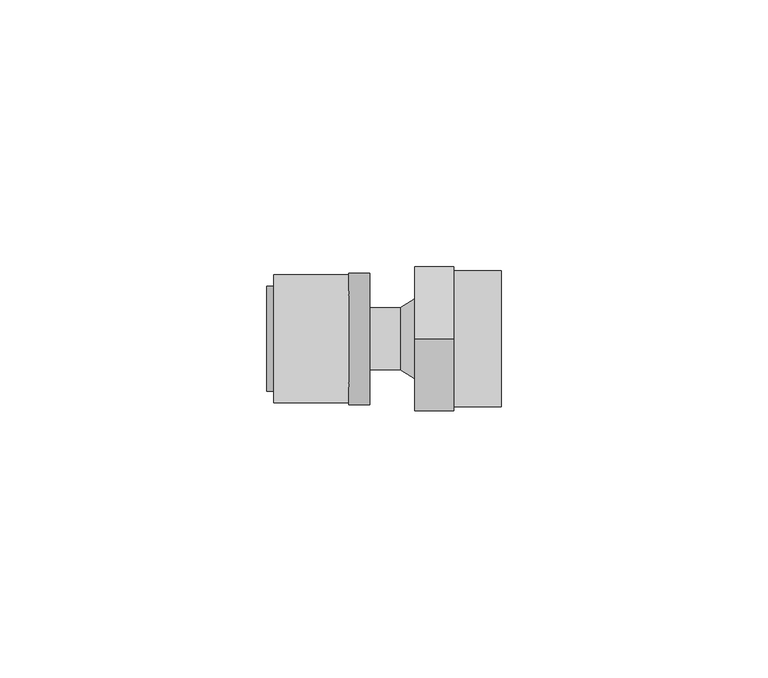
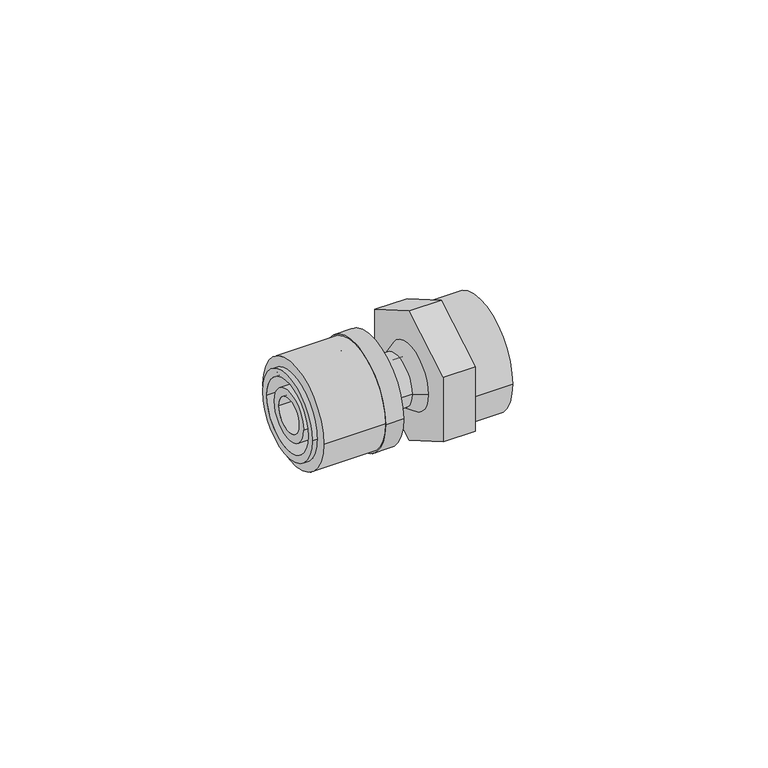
"""IFC4 building model written with IfcOpenShell, lengths in millimetres: pipe fitting geometry, FASTLOC_Adapter_LX, with internal thread : FSL A internal CZ."""

import ifcopenshell
import ifcopenshell.guid

model = None  # the IFC model being written
_history = None  # IfcOwnerHistory: only IFC2X3 demands one
_inside = {}  # id of a spatial element -> (the spatial element, [elements in it])
_under = {}  # id of a project, library or spatial element -> (it, [spatial elements below it])
_declared = {}  # id of a project -> (the project, [libraries it declares])
_typed = {}  # id of a type object -> (the type object, [elements of that type])
_made_of = {}  # id of a material, layer set ... -> (it, [elements and type objects made of it])


def new_model(schema):
    """Start an empty IFC model of exactly this schema.

    Asked for "IFC4X3", IfcOpenShell would pick the latest addendum, in which some entities
    have other attributes; the version numbers below select the first issue.
    IFC2X3 requires an IfcOwnerHistory on every rooted entity: one is made here for all.
    """
    global model, _history
    if schema == "IFC4X3":
        model = ifcopenshell.file(schema_version=(4, 3, 0, 0))
    else:
        model = ifcopenshell.file(schema=schema)
    _inside.clear()
    _under.clear()
    _declared.clear()
    _typed.clear()
    _made_of.clear()
    _history = None
    if model.schema == "IFC2X3":
        org = make("IfcOrganization", Name="unknown")
        user = make(
            "IfcPersonAndOrganization",
            ThePerson=make("IfcPerson", FamilyName="unknown"),
            TheOrganization=org,
        )
        app = make(
            "IfcApplication",
            ApplicationDeveloper=org,
            Version="unknown",
            ApplicationFullName="unknown",
            ApplicationIdentifier="unknown",
        )
        _history = make(
            "IfcOwnerHistory",
            OwningUser=user,
            OwningApplication=app,
            ChangeAction="ADDED",
            CreationDate=0,
        )
    return model


def make(cls, **values):
    """One entity of the class cls with the attributes given. An attribute that is None is left unset."""
    return model.create_entity(
        cls, **{name: value for name, value in values.items() if value is not None}
    )


def rooted(cls, **values):
    """An entity with a GlobalId (a new one), such as an element, a storey or a relation."""
    return make(cls, GlobalId=ifcopenshell.guid.new(), OwnerHistory=_history, **values)


def si_unit(unit_type, name, prefix=None):
    """IfcSIUnit, for example si_unit("LENGTHUNIT", "METRE", prefix="MILLI")."""
    return make("IfcSIUnit", UnitType=unit_type, Prefix=prefix, Name=name)


def assignment(units):
    """IfcUnitAssignment: the units of a project."""
    return None if units is None else make("IfcUnitAssignment", Units=units)


def point(xyz):
    """IfcCartesianPoint."""
    return None if xyz is None else make("IfcCartesianPoint", Coordinates=xyz)


def direction(xyz):
    """IfcDirection."""
    return None if xyz is None else make("IfcDirection", DirectionRatios=xyz)


def frame(location, z_axis=None, x_axis=None):
    """IfcAxis2Placement3D, a coordinate frame: its origin and axes. An axis left out is left unset."""
    return make(
        "IfcAxis2Placement3D",
        Location=point(location),
        Axis=direction(z_axis),
        RefDirection=direction(x_axis),
    )


def frame_2d(location, x_axis=None):
    """IfcAxis2Placement2D, a coordinate frame in the plane: its origin and x axis."""
    return make(
        "IfcAxis2Placement2D", Location=point(location), RefDirection=direction(x_axis)
    )


def origin():
    """The frame at (0, 0, 0) with its axes left unset."""
    return frame((0.0, 0.0, 0.0))


def origin_2d():
    """The frame at (0, 0) in the plane with its x axis left unset."""
    return frame_2d((0.0, 0.0))


def place(relative_to, where):
    """IfcLocalPlacement: puts the frame where relative to a parent placement (None: the world)."""
    return make(
        "IfcLocalPlacement", PlacementRelTo=relative_to, RelativePlacement=where
    )


def context(
    kind, dimensions, precision=None, world=None, true_north=None, identifier=None
):
    """IfcGeometricRepresentationContext, for example the 3D "Model" context."""
    return make(
        "IfcGeometricRepresentationContext",
        ContextIdentifier=identifier,
        ContextType=kind,
        CoordinateSpaceDimension=dimensions,
        Precision=precision,
        WorldCoordinateSystem=world,
        TrueNorth=true_north,
    )


def project(units=None, contexts=None):
    """IfcProject with its units and contexts."""
    return rooted(
        "IfcProject",
        Name="project",
        RepresentationContexts=contexts,
        UnitsInContext=assignment(units),
    )


def spatial(cls, under=None, at=None, **own):
    """A site, building, storey or space (cls), placed at a placement, below another one or the project."""
    s = rooted(cls, ObjectPlacement=at, **own)
    if under is not None:
        _under.setdefault(under.id(), (under, []))[1].append(s)
    return s


def polyline(points):
    """IfcPolyline through the points."""
    return make("IfcPolyline", Points=[point(p) for p in points])


def circle_curve(where, radius):
    """IfcCircle in the frame where."""
    return make("IfcCircle", Position=where, Radius=radius)


def trimmed(basis, trim1, trim2, sense, master):
    """IfcTrimmedCurve: the piece of a basis curve between two trims."""
    return make(
        "IfcTrimmedCurve",
        BasisCurve=basis,
        Trim1=trim1,
        Trim2=trim2,
        SenseAgreement=sense,
        MasterRepresentation=master,
    )


def segment(curve, same_sense, transition):
    """IfcCompositeCurveSegment."""
    return make(
        "IfcCompositeCurveSegment",
        Transition=transition,
        SameSense=same_sense,
        ParentCurve=curve,
    )


def composite_curve(segments, self_intersect=None):
    """IfcCompositeCurve: segments joined end to end."""
    return make("IfcCompositeCurve", Segments=segments, SelfIntersect=self_intersect)


def outline(outer, holes=None, kind="AREA"):
    """IfcArbitraryClosedProfileDef: a profile drawn as a closed curve; with holes, ...WithVoids."""
    if holes is None:
        return make("IfcArbitraryClosedProfileDef", ProfileType=kind, OuterCurve=outer)
    return make(
        "IfcArbitraryProfileDefWithVoids",
        ProfileType=kind,
        OuterCurve=outer,
        InnerCurves=holes,
    )


def extrude(swept, where, along, depth):
    """IfcExtrudedAreaSolid: the profile swept, set in the frame where, extruded along a direction by depth."""
    return make(
        "IfcExtrudedAreaSolid",
        SweptArea=swept,
        Position=where,
        ExtrudedDirection=direction(along),
        Depth=depth,
    )


def shape(context_of_items, identifier, shape_type, items):
    """IfcShapeRepresentation: the items that make up one representation, for example the "Body"."""
    return make(
        "IfcShapeRepresentation",
        ContextOfItems=context_of_items,
        RepresentationIdentifier=identifier,
        RepresentationType=shape_type,
        Items=items,
    )


def source(mapping_origin, context_of_items, identifier, shape_type, items):
    """IfcRepresentationMap: a shape defined once, which mapped items show again and again."""
    return make(
        "IfcRepresentationMap",
        MappingOrigin=mapping_origin,
        MappedRepresentation=shape(context_of_items, identifier, shape_type, items),
    )


def transform(
    local_origin,
    x_axis=None,
    y_axis=None,
    z_axis=None,
    scale=None,
    scale2=None,
    scale3=None,
    uniform=True,
):
    """IfcCartesianTransformationOperator3D, or its non-uniform kind. x_axis, y_axis, z_axis: its Axis1, 2, 3."""
    if uniform:
        return make(
            "IfcCartesianTransformationOperator3D",
            Axis1=direction(x_axis),
            Axis2=direction(y_axis),
            LocalOrigin=point(local_origin),
            Scale=scale,
            Axis3=direction(z_axis),
        )
    return make(
        "IfcCartesianTransformationOperator3DnonUniform",
        Axis1=direction(x_axis),
        Axis2=direction(y_axis),
        LocalOrigin=point(local_origin),
        Scale=scale,
        Axis3=direction(z_axis),
        Scale2=scale2,
        Scale3=scale3,
    )


def mapped(mapping_source, mapping_target):
    """IfcMappedItem: shows the shape of a source again, moved by a transform."""
    return make(
        "IfcMappedItem", MappingSource=mapping_source, MappingTarget=mapping_target
    )


def made_of(thing, what):
    """Note that an element or type object is made of a material, layer set ...; save() writes the relation."""
    if what is not None:
        _made_of.setdefault(what.id(), (what, []))[1].append(thing)
    return thing


def element(
    cls,
    number,
    at=None,
    inside=None,
    cuts=None,
    type_object=None,
    material=None,
    context=None,
    identifier="Body",
    shape_type=None,
    held_by="IfcProductDefinitionShape",
    body=None,
    shapes=None,
    **own,
):
    """One element of the class cls, such as IfcWall. Its Tag is "e" and its number.

    at: its placement. inside: the storey or other place that contains it. cuts: it is an
    opening in that element (IfcRelVoidsElement). A single representation is given by context,
    identifier, shape_type and body (its items); several are given by shapes. held_by: the class
    of the entity that holds the representations. save() writes the other relations.
    """
    e = rooted(cls, Tag="e%d" % number, ObjectPlacement=at, **own)
    if body is not None:
        shapes = [shape(context, identifier, shape_type, body)]
    if shapes is not None:
        e.Representation = make(held_by, Representations=shapes)
    if inside is not None:
        _inside.setdefault(inside.id(), (inside, []))[1].append(e)
    if cuts is not None:
        rooted(
            "IfcRelVoidsElement", RelatingBuildingElement=cuts, RelatedOpeningElement=e
        )
    if type_object is not None:
        _typed.setdefault(type_object.id(), (type_object, []))[1].append(e)
    return made_of(e, material)


def aggregate(whole, parts):
    """IfcRelAggregates: a whole, such as a stair, and the parts it consists of."""
    return rooted("IfcRelAggregates", RelatingObject=whole, RelatedObjects=parts)


def save(model, path):
    """Write the relations noted so far, then the file.

    IfcRelAggregates (storeys below a building ...), IfcRelContainedInSpatialStructure (elements
    in a storey), IfcRelDefinesByType, IfcRelAssociatesMaterial and IfcRelDeclares: one each for
    every whole, place, type object, material and project.
    """
    for whole, parts in _under.values():
        aggregate(whole, parts)
    for where, things in _inside.values():
        rooted(
            "IfcRelContainedInSpatialStructure",
            RelatedElements=things,
            RelatingStructure=where,
        )
    for kind, things in _typed.values():
        rooted("IfcRelDefinesByType", RelatedObjects=things, RelatingType=kind)
    for what, things in _made_of.values():
        rooted("IfcRelAssociatesMaterial", RelatedObjects=things, RelatingMaterial=what)
    for by, libraries in _declared.values():
        rooted("IfcRelDeclares", RelatingContext=by, RelatedDefinitions=libraries)
    model.write(path)


def plane_surface(at):
    """IfcPlane: the flat surface through the origin of the frame at, square to its z axis."""
    return make("IfcPlane", Position=at)


def cylinder_surface(at, radius):
    """IfcCylindricalSurface: all points at the distance radius from the z axis of the frame at."""
    return make("IfcCylindricalSurface", Position=at, Radius=radius)


def revolved_surface(curve, axis_point, axis_direction):
    """IfcSurfaceOfRevolution: the curve turned about the line through axis_point along axis_direction."""
    return make(
        "IfcSurfaceOfRevolution",
        SweptCurve=make("IfcArbitraryOpenProfileDef", ProfileType="CURVE", Curve=curve),
        AxisPosition=make("IfcAxis1Placement", Location=point(axis_point), Axis=direction(axis_direction)),
    )


def advanced_brep(points, edges, surfaces, faces):
    """IfcAdvancedBrep: a solid bounded by faces that lie on surfaces and meet in shared edges.

    An edge is (start, end): straight between two places in points (the first is 0);
    or (start, end, curve); or (start, end, curve, False) where it runs against its curve.
    A face is (place in surfaces, loops), or (place, loops, False) where it looks against
    its surface's normal. A loop lists edges by number (the first is 1), with a minus sign
    where the edge is run from its end to its start. The first loop is the outer one.
    """
    corners = [point(p) for p in points]
    vertices = [make("IfcVertexPoint", VertexGeometry=c) for c in corners]
    made = []
    for start, end, *more in edges:
        made.append(
            make(
                "IfcEdgeCurve",
                EdgeStart=vertices[start],
                EdgeEnd=vertices[end],
                EdgeGeometry=more[0] if more else make("IfcPolyline", Points=[corners[start], corners[end]]),
                SameSense=more[1] if len(more) > 1 else True,
            )
        )
    hull = []
    for where, loops, *sense in faces:
        bounds = []
        for j, loop in enumerate(loops):
            ring = [make("IfcOrientedEdge", EdgeElement=made[abs(k) - 1], Orientation=k > 0) for k in loop]
            bounds.append(
                make(
                    "IfcFaceOuterBound" if j == 0 else "IfcFaceBound",
                    Bound=make("IfcEdgeLoop", EdgeList=ring),
                    Orientation=True,
                )
            )
        hull.append(make("IfcAdvancedFace", Bounds=bounds, FaceSurface=surfaces[where], SameSense=sense[0] if sense else True))
    return make("IfcAdvancedBrep", Outer=make("IfcClosedShell", CfsFaces=hull))


def pipe_fitting_836a2278(model_context):
    return source(origin(), model_context, "Body", "SolidModel", [
        extrude(outline(composite_curve([segment(trimmed(circle_curve(origin_2d(), 12.0), [point((12.0, 0.0))], [point((-12.0, 0.0))], False, "CARTESIAN"), True, "CONTINUOUS"), segment(trimmed(circle_curve(origin_2d(), 12.0), [point((-12.0, 0.0))], [point((12.0, 0.0))], False, "CARTESIAN"), True, "CONTINUOUS")], self_intersect=False), holes=[composite_curve([segment(trimmed(circle_curve(origin_2d(), 8.85), [point((8.85, 0.0))], [point((-8.85, 0.0))], True, "CARTESIAN"), True, "CONTINUOUS"), segment(trimmed(circle_curve(origin_2d(), 8.85), [point((-8.85, 0.0))], [point((8.85, 0.0))], True, "CARTESIAN"), True, "CONTINUOUS")], self_intersect=False)]), frame((-26.4, 0.0, 0.0), z_axis=(1.0, 0.0, 0.0), x_axis=(0.0, 1.0, 0.0)), (0.0, 0.0, 1.0), 14.0),
        advanced_brep(
        [(-12.4, -12.35, 0.0), (-12.4, 12.35, 0.0), (-8.4, 12.35, 0.0), (-8.4, -12.35, 0.0), (-27.7, -9.85, 0.0), (-27.7, 9.85, 0.0), (-12.4, 9.85, 0.0), (-12.4, -9.85, 0.0), (-8.4, -8.15, 0.0), (-8.4, 8.15, 0.0), (-27.7, 8.15, 0.0), (-27.7, -8.15, 0.0)],
        [
            (0, 1, circle_curve(frame((-12.4, 0.0, 0.0), z_axis=(1.0, 0.0, 0.0), x_axis=(0.0, 1.0, 0.0)), 12.35)),
            (1, 2),
            (2, 3, circle_curve(frame((-8.4, 0.0, 0.0), z_axis=(-1.0, 0.0, 0.0), x_axis=(0.0, 1.0, 0.0)), 12.35)),
            (3, 0),
            (4, 5, circle_curve(frame((-27.7, 0.0, 0.0), z_axis=(1.0, 0.0, 0.0), x_axis=(0.0, 1.0, 0.0)), 9.85)),
            (5, 6),
            (6, 7, circle_curve(frame((-12.4, 0.0, 0.0), z_axis=(-1.0, 0.0, 0.0), x_axis=(0.0, 1.0, 0.0)), 9.85)),
            (7, 4),
            (8, 9, circle_curve(frame((-8.4, 0.0, 0.0), z_axis=(1.0, 0.0, 0.0), x_axis=(0.0, 1.0, 0.0)), 8.15)),
            (9, 10),
            (10, 11, circle_curve(frame((-27.7, 0.0, 0.0), z_axis=(-1.0, 0.0, 0.0), x_axis=(0.0, 1.0, 0.0)), 8.15)),
            (11, 8),
            (1, 0, circle_curve(frame((-12.4, 0.0, 0.0), z_axis=(1.0, 0.0, 0.0), x_axis=(0.0, -1.0, 0.0)), 12.35)),
            (3, 2, circle_curve(frame((-8.4, 0.0, 0.0), z_axis=(-1.0, 0.0, 0.0), x_axis=(0.0, -1.0, 0.0)), 12.35)),
            (6, 7, circle_curve(frame((-12.4, 0.0, 0.0), z_axis=(1.0, 0.0, 0.0), x_axis=(0.0, -1.0, 0.0)), 9.85)),
            (5, 4, circle_curve(frame((-27.7, 0.0, 0.0), z_axis=(1.0, 0.0, 0.0), x_axis=(0.0, -1.0, 0.0)), 9.85)),
            (10, 11, circle_curve(frame((-27.7, 0.0, 0.0), z_axis=(1.0, 0.0, 0.0), x_axis=(0.0, -1.0, 0.0)), 8.15)),
            (9, 8, circle_curve(frame((-8.4, 0.0, 0.0), z_axis=(1.0, 0.0, 0.0), x_axis=(0.0, -1.0, 0.0)), 8.15)),
        ],
        [
            cylinder_surface(frame((-8.4, 0.0, 0.0), z_axis=(-1.0, 0.0, 0.0), x_axis=(0.0, 1.0, 0.0)), 12.35),
            cylinder_surface(frame((-8.4, 0.0, 0.0), z_axis=(-1.0, 0.0, 0.0), x_axis=(0.0, 1.0, 0.0)), 9.85),
            revolved_surface(polyline([(-27.699999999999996, 8.15, 0.0), (-8.4, 8.15, 0.0)]), (-8.4, 0.0, 0.0), (-1.0, 0.0, 0.0)),
            cylinder_surface(frame((-8.4, 0.0, 0.0), z_axis=(-1.0, 0.0, 0.0), x_axis=(0.0, -1.0, 0.0)), 12.35),
            plane_surface(frame((-12.4, 0.0, 0.0), z_axis=(-1.0, 0.0, 0.0), x_axis=(0.0, -1.0, 0.0))),
            cylinder_surface(frame((-8.4, 0.0, 0.0), z_axis=(-1.0, 0.0, 0.0), x_axis=(0.0, -1.0, 0.0)), 9.85),
            plane_surface(frame((-27.7, 0.0, 0.0), z_axis=(-1.0, 0.0, 0.0), x_axis=(0.0, -1.0, 0.0))),
            revolved_surface(polyline([(-27.699999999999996, -8.15, 0.0), (-8.4, -8.15, 0.0)]), (-8.4, 0.0, 0.0), (-1.0, 0.0, 0.0)),
            plane_surface(frame((-8.4, 0.0, 0.0), z_axis=(1.0, 0.0, 0.0), x_axis=(0.0, -1.0, 0.0))),
        ],
        [
            (0, [[1, 2, 3, 4]]),
            (1, [[5, 6, 7, 8]]),
            (2, [[9, 10, 11, 12]]),
            (3, [[13, -4, 14, -2]]),
            (4, [[-13, -1], [15, -7]]),
            (5, [[16, -8, -15, -6]]),
            (6, [[-16, -5], [17, -11]]),
            (7, [[18, -12, -17, -10]]),
            (8, [[-14, -3], [-18, -9]]),
        ],
    ),
        advanced_brep(
        [(-12.4, 5.8, 0.0), (-12.4, -5.8, 0.0), (-27.4, -5.8, 0.0), (-27.4, 5.8, 0.0), (-9.7, 7.5, 0.0), (-9.7, -7.5, 0.0), (-12.4, -7.5, 0.0), (-12.4, 7.5, 0.0), (-2.7, 5.8, 0.0), (-2.7, -5.8, 0.0), (-9.7, -5.8, 0.0), (-9.7, 5.8, 0.0), (0.0, 7.5, 0.0), (0.0, -7.5, 0.0), (-27.4, 3.95, 0.0), (-27.4, -3.95, 0.0), (0.0, -3.95, 0.0), (0.0, 3.95, 0.0)],
        [
            (0, 1, circle_curve(frame((-12.4, 0.0, 0.0), z_axis=(-1.0, 0.0, 0.0), x_axis=(0.0, -1.0, 0.0)), 5.8)),
            (1, 2),
            (2, 3, circle_curve(frame((-27.4, 0.0, 0.0), z_axis=(1.0, 0.0, 0.0), x_axis=(0.0, -1.0, 0.0)), 5.8)),
            (3, 0),
            (4, 5, circle_curve(frame((-9.7, 0.0, 0.0), z_axis=(-1.0, 0.0, 0.0), x_axis=(0.0, -1.0, 0.0)), 7.5)),
            (5, 6),
            (6, 7, circle_curve(frame((-12.4, 0.0, 0.0), z_axis=(1.0, 0.0, 0.0), x_axis=(0.0, -1.0, 0.0)), 7.5)),
            (7, 4),
            (8, 9, circle_curve(frame((-2.7, 0.0, 0.0), z_axis=(-1.0, 0.0, 0.0), x_axis=(0.0, -1.0, 0.0)), 5.8)),
            (9, 10),
            (10, 11, circle_curve(frame((-9.7, 0.0, 0.0), z_axis=(1.0, 0.0, 0.0), x_axis=(0.0, -1.0, 0.0)), 5.8)),
            (11, 8),
            (12, 13, circle_curve(frame((0.0, 0.0, 0.0), z_axis=(-1.0, 0.0, 0.0), x_axis=(0.0, -1.0, 0.0)), 7.5)),
            (13, 9),
            (8, 12),
            (14, 15, circle_curve(frame((-27.4, 0.0, 0.0), z_axis=(-1.0, 0.0, 0.0), x_axis=(0.0, -1.0, 0.0)), 3.95)),
            (15, 16),
            (16, 17, circle_curve(frame((0.0, 0.0, 0.0), z_axis=(1.0, 0.0, 0.0), x_axis=(0.0, -1.0, 0.0)), 3.95)),
            (17, 14),
            (2, 3, circle_curve(frame((-27.4, 0.0, 0.0), z_axis=(-1.0, 0.0, 0.0), x_axis=(0.0, 1.0, 0.0)), 5.8)),
            (14, 15, circle_curve(frame((-27.4, 0.0, 0.0), z_axis=(1.0, 0.0, 0.0), x_axis=(0.0, 1.0, 0.0)), 3.95)),
            (1, 0, circle_curve(frame((-12.4, 0.0, 0.0), z_axis=(-1.0, 0.0, 0.0), x_axis=(0.0, 1.0, 0.0)), 5.8)),
            (6, 7, circle_curve(frame((-12.4, 0.0, 0.0), z_axis=(-1.0, 0.0, 0.0), x_axis=(0.0, 1.0, 0.0)), 7.5)),
            (5, 4, circle_curve(frame((-9.7, 0.0, 0.0), z_axis=(-1.0, 0.0, 0.0), x_axis=(0.0, 1.0, 0.0)), 7.5)),
            (10, 11, circle_curve(frame((-9.7, 0.0, 0.0), z_axis=(-1.0, 0.0, 0.0), x_axis=(0.0, 1.0, 0.0)), 5.8)),
            (9, 8, circle_curve(frame((-2.7, 0.0, 0.0), z_axis=(-1.0, 0.0, 0.0), x_axis=(0.0, 1.0, 0.0)), 5.8)),
            (13, 12, circle_curve(frame((0.0, 0.0, 0.0), z_axis=(-1.0, 0.0, 0.0), x_axis=(0.0, 1.0, 0.0)), 7.5)),
            (16, 17, circle_curve(frame((0.0, 0.0, 0.0), z_axis=(-1.0, 0.0, 0.0), x_axis=(0.0, 1.0, 0.0)), 3.95)),
        ],
        [
            cylinder_surface(frame((0.0, 0.0, 0.0), z_axis=(1.0, 0.0, 0.0), x_axis=(0.0, -1.0, 0.0)), 5.8),
            cylinder_surface(frame((0.0, 0.0, 0.0), z_axis=(1.0, 0.0, 0.0), x_axis=(0.0, -1.0, 0.0)), 7.5),
            revolved_surface(polyline([(-2.7, -5.8, 0.0), (0.0, -7.5, 0.0)]), (0.0, 0.0, 0.0), (1.0, 0.0, 0.0)),
            revolved_surface(polyline([(0.0, -3.95, 0.0), (-27.4, -3.95, 0.0)]), (0.0, 0.0, 0.0), (1.0, 0.0, 0.0)),
            plane_surface(frame((-27.4, 0.0, 0.0), z_axis=(-1.0, 0.0, 0.0), x_axis=(0.0, 1.0, 0.0))),
            cylinder_surface(frame((0.0, 0.0, 0.0), z_axis=(1.0, 0.0, 0.0), x_axis=(0.0, 1.0, 0.0)), 5.8),
            plane_surface(frame((-12.4, 0.0, 0.0), z_axis=(-1.0, 0.0, 0.0), x_axis=(0.0, 1.0, 0.0))),
            cylinder_surface(frame((0.0, 0.0, 0.0), z_axis=(1.0, 0.0, 0.0), x_axis=(0.0, 1.0, 0.0)), 7.5),
            plane_surface(frame((-9.7, 0.0, 0.0), z_axis=(1.0, 0.0, 0.0), x_axis=(0.0, 1.0, 0.0))),
            revolved_surface(polyline([(-2.7, 5.8, 0.0), (0.0, 7.5, 0.0)]), (0.0, 0.0, 0.0), (1.0, 0.0, 0.0)),
            plane_surface(frame((0.0, 0.0, 0.0), z_axis=(1.0, 0.0, 0.0), x_axis=(0.0, 1.0, 0.0))),
            revolved_surface(polyline([(0.0, 3.95, 0.0), (-27.4, 3.95, 0.0)]), (0.0, 0.0, 0.0), (1.0, 0.0, 0.0)),
        ],
        [
            (0, [[1, 2, 3, 4]]),
            (1, [[5, 6, 7, 8]]),
            (0, [[9, 10, 11, 12]]),
            (2, [[13, 14, -9, 15]]),
            (3, [[16, 17, 18, 19]]),
            (4, [[20, -3], [21, -16]]),
            (5, [[22, -4, -20, -2]]),
            (6, [[23, -7], [-22, -1]]),
            (7, [[24, -8, -23, -6]]),
            (8, [[-24, -5], [25, -11]]),
            (5, [[26, -12, -25, -10]]),
            (9, [[27, -15, -26, -14]]),
            (10, [[-27, -13], [28, -18]]),
            (11, [[-21, -19, -28, -17]]),
        ],
    ),
        extrude(outline(polyline([(0.0, -15.5884573), (-13.5, -7.7942286), (-13.5, 7.7942286), (0.0, 15.5884573), (13.5, 7.7942286), (13.5, -7.7942286), (0.0, -15.5884573)]), holes=[composite_curve([segment(trimmed(circle_curve(origin_2d(), 3.95), [point((-3.95, 0.0))], [point((3.95, 0.0))], True, "CARTESIAN"), True, "CONTINUOUS"), segment(trimmed(circle_curve(origin_2d(), 3.95), [point((3.95, 0.0))], [point((-3.95, 0.0))], True, "CARTESIAN"), True, "CONTINUOUS")], self_intersect=False)]), frame((0.0, 0.0, 0.0), z_axis=(1.0, 0.0, 0.0), x_axis=(0.0, 1.0, 0.0)), (0.0, 0.0, 1.0), 7.3),
        extrude(outline(composite_curve([segment(trimmed(circle_curve(origin_2d(), 12.75), [point((-12.75, 0.0))], [point((12.75, 0.0))], False, "CARTESIAN"), True, "CONTINUOUS"), segment(trimmed(circle_curve(origin_2d(), 12.75), [point((12.75, 0.0))], [point((-12.75, 0.0))], False, "CARTESIAN"), True, "CONTINUOUS")], self_intersect=False), holes=[composite_curve([segment(trimmed(circle_curve(origin_2d(), 9.3), [point((-9.3, 0.0))], [point((9.3, 0.0))], True, "CARTESIAN"), True, "CONTINUOUS"), segment(trimmed(circle_curve(origin_2d(), 9.3), [point((9.3, 0.0))], [point((-9.3, 0.0))], True, "CARTESIAN"), True, "CONTINUOUS")], self_intersect=False)]), frame((7.3, 0.0, 0.0), z_axis=(1.0, 0.0, 0.0), x_axis=(0.0, 1.0, 0.0)), (0.0, 0.0, 1.0), 8.9),
    ])


if __name__ == "__main__":
    model = new_model("IFC4")
    model_context = context("Model", 3, world=origin())
    ifc_project = project(units=[si_unit("LENGTHUNIT", "METRE", prefix="MILLI")], contexts=[model_context])
    site = spatial("IfcSite", under=ifc_project)
    building = spatial("IfcBuilding", under=site)
    placement = place(None, origin())
    pipe_fitting_shape = pipe_fitting_836a2278(model_context)
    element("IfcPipeFitting", 1, ObjectType="FASTLOC_Adapter_LX, with internal thread : FSL A internal CZ", at=placement, inside=building, context=model_context, shape_type="MappedRepresentation", body=[
        mapped(pipe_fitting_shape, transform((0.0, 0.0, 0.0), x_axis=(1.0, 0.0, 0.0), y_axis=(0.0, 1.0, 0.0), z_axis=(0.0, 0.0, 1.0))),
    ])
    save(model, "model.ifc")
